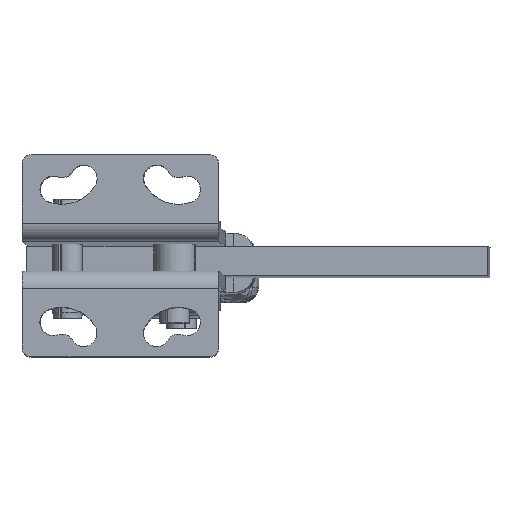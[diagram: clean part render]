
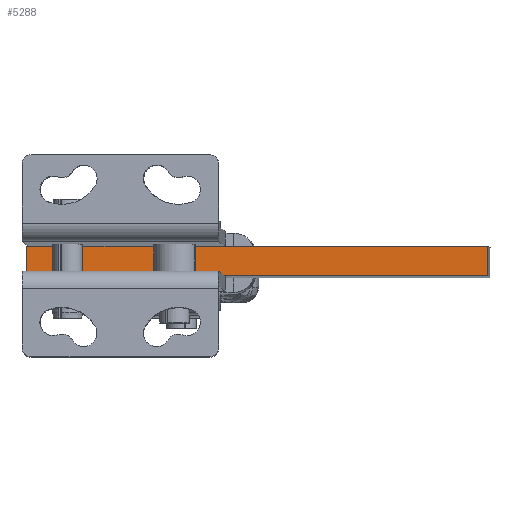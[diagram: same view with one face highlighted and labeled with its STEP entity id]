
A CAD part, front view. The second image highlights one B-rep face of the part: STEP entity #5288.
In plain terms, the highlighted planar face has unit normal (-0.026, -1, 0.021) as drawn and (0, -1, 0) by its records, which use the part's own axes.
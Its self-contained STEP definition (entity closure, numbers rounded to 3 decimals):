
#418 = DIRECTION ( 'NONE',  ( 1., 0., 0. ) ) ;
#551 = ORIENTED_EDGE ( 'NONE', *, *, #6597, .F. ) ;
#746 = EDGE_CURVE ( 'NONE', #13085, #11548, #2942, .T. ) ;
#846 = ORIENTED_EDGE ( 'NONE', *, *, #746, .F. ) ;
#1020 = CARTESIAN_POINT ( 'NONE',  ( 0., 0., 10. ) ) ;
#2234 = DIRECTION ( 'NONE',  ( 1., 0., 0. ) ) ;
#2305 = CARTESIAN_POINT ( 'NONE',  ( 0., 0., 0. ) ) ;
#2914 = ORIENTED_EDGE ( 'NONE', *, *, #5380, .T. ) ;
#2942 = LINE ( 'NONE', #12892, #4676 ) ;
#4676 = VECTOR ( 'NONE', #10949, 1000. ) ;
#4837 = VECTOR ( 'NONE', #418, 1000. ) ;
#5003 = AXIS2_PLACEMENT_3D ( 'NONE', #12197, #7117, #11262 ) ;
#5051 = ORIENTED_EDGE ( 'NONE', *, *, #11169, .T. ) ;
#5062 = FACE_OUTER_BOUND ( 'NONE', #5825, .T. ) ;
#5288 = ADVANCED_FACE ( 'Face3', ( #5062 ), #8123, .F. ) ;
#5380 = EDGE_CURVE ( 'NONE', #7134, #11548, #11377, .T. ) ;
#5825 = EDGE_LOOP ( 'NONE', ( #2914, #846, #551, #5051 ) ) ;
#6027 = LINE ( 'NONE', #1020, #11380 ) ;
#6597 = EDGE_CURVE ( 'NONE', #11948, #13085, #10456, .T. ) ;
#6693 = VECTOR ( 'NONE', #2234, 1000. ) ;
#7028 = DIRECTION ( 'NONE',  ( 0., 0., -1. ) ) ;
#7117 = DIRECTION ( 'NONE',  ( 0., 1., 0. ) ) ;
#7134 = VERTEX_POINT ( 'NONE', #9695 ) ;
#8123 = PLANE ( 'NONE',  #5003 ) ;
#8502 = CARTESIAN_POINT ( 'NONE',  ( 155., 0., 0. ) ) ;
#8512 = CARTESIAN_POINT ( 'NONE',  ( 0., 0., 10. ) ) ;
#9695 = CARTESIAN_POINT ( 'NONE',  ( 0., 0., 0. ) ) ;
#9957 = CARTESIAN_POINT ( 'NONE',  ( 0., 0., 10. ) ) ;
#10456 = LINE ( 'NONE', #8512, #4837 ) ;
#10949 = DIRECTION ( 'NONE',  ( 0., 0., -1. ) ) ;
#11169 = EDGE_CURVE ( 'NONE', #11948, #7134, #6027, .T. ) ;
#11262 = DIRECTION ( 'NONE',  ( 0., 0., 1. ) ) ;
#11347 = CARTESIAN_POINT ( 'NONE',  ( 155., 0., 10. ) ) ;
#11377 = LINE ( 'NONE', #2305, #6693 ) ;
#11380 = VECTOR ( 'NONE', #7028, 1000. ) ;
#11548 = VERTEX_POINT ( 'NONE', #8502 ) ;
#11948 = VERTEX_POINT ( 'NONE', #9957 ) ;
#12197 = CARTESIAN_POINT ( 'NONE',  ( 0., 0., 10. ) ) ;
#12892 = CARTESIAN_POINT ( 'NONE',  ( 155., 0., 10. ) ) ;
#13085 = VERTEX_POINT ( 'NONE', #11347 ) ;
